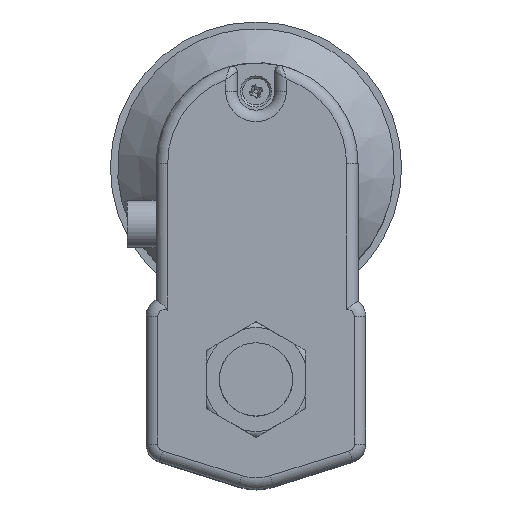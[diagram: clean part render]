
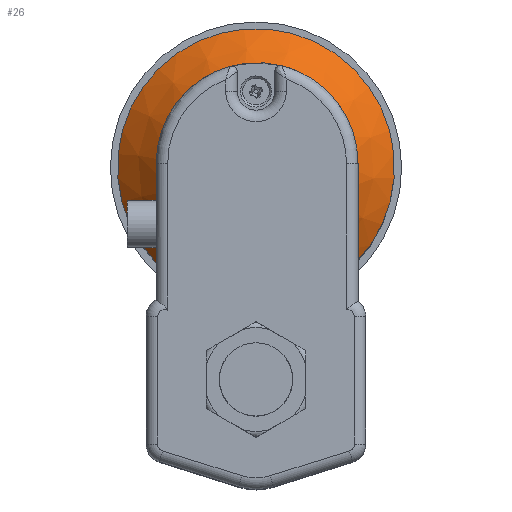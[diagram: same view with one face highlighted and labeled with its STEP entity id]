
A CAD part, top view. The second image highlights one B-rep face of the part: STEP entity #26.
In plain terms, the highlighted conical face has half-angle 45 degrees and reference radius 48 mm.
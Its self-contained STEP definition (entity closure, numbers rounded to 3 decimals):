
#26 = ADVANCED_FACE ( 'NONE', ( #1602, #1596 ), #1603, .T. ) ;
#202 = CARTESIAN_POINT ( 'NONE',  ( 0., 73.9, 53.5 ) ) ;
#203 = DIRECTION ( 'NONE',  ( 0., 0., -1. ) ) ;
#206 = DIRECTION ( 'NONE',  ( 0., 1., 0. ) ) ;
#475 = VERTEX_POINT ( 'NONE', #3270 ) ;
#644 = EDGE_CURVE ( 'NONE', #5731, #5731, #1817, .T. ) ;
#655 = EDGE_CURVE ( 'NONE', #2865, #475, #2910, .T. ) ;
#664 = EDGE_CURVE ( 'NONE', #475, #2865, #1841, .T. ) ;
#903 = AXIS2_PLACEMENT_3D ( 'NONE', #202, #203, #206 ) ;
#1219 = AXIS2_PLACEMENT_3D ( 'NONE', #3708, #3709, #3710 ) ;
#1232 = AXIS2_PLACEMENT_3D ( 'NONE', #3858, #3867, #3868 ) ;
#1596 = FACE_OUTER_BOUND ( 'NONE', #2091, .T. ) ;
#1602 = FACE_BOUND ( 'NONE', #2108, .T. ) ;
#1603 = CONICAL_SURFACE ( 'NONE', #903, 48., 0.785 ) ;
#1817 = CIRCLE ( 'NONE', #1219, 34. ) ;
#1841 = CIRCLE ( 'NONE', #1232, 48. ) ;
#2091 = EDGE_LOOP ( 'NONE', ( #2651, #2652 ) ) ;
#2108 = EDGE_LOOP ( 'NONE', ( #2650 ) ) ;
#2650 = ORIENTED_EDGE ( 'NONE', *, *, #644, .F. ) ;
#2651 = ORIENTED_EDGE ( 'NONE', *, *, #664, .T. ) ;
#2652 = ORIENTED_EDGE ( 'NONE', *, *, #655, .T. ) ;
#2865 = VERTEX_POINT ( 'NONE', #5095 ) ;
#2910 = B_SPLINE_CURVE_WITH_KNOTS ( 'NONE', 3,
 ( #3735, #3732, #3740, #3741, #3742, #3743, #3744, #3745, #3746, #3747, #3748, #3749, #3750, #3751, #3752, #3753, #3754, #3755, #3756, #3757, #3758, #3759, #3760, #3761, #3762, #3763 ),
 .UNSPECIFIED., .F., .F.,
 ( 4, 2, 2, 2, 2, 2, 2, 2, 2, 2, 2, 2, 4 ),
 ( 0., 0.004, 0.007, 0.015, 0.018, 0.022, 0.026, 0.029, 0.037, 0.04, 0.044, 0.051, 0.059 ),
 .UNSPECIFIED. ) ;
#3270 = CARTESIAN_POINT ( 'NONE',  ( 27.908, 34.847, 53.5 ) ) ;
#3708 = CARTESIAN_POINT ( 'NONE',  ( 0., 73.9, 67.5 ) ) ;
#3709 = DIRECTION ( 'NONE',  ( 0., 0., 1. ) ) ;
#3710 = DIRECTION ( 'NONE',  ( 0., -1., 0. ) ) ;
#3732 = CARTESIAN_POINT ( 'NONE',  ( -26.826, 34.768, 54.065 ) ) ;
#3735 = CARTESIAN_POINT ( 'NONE',  ( -27.908, 34.847, 53.5 ) ) ;
#3740 = CARTESIAN_POINT ( 'NONE',  ( -25.733, 34.688, 54.609 ) ) ;
#3741 = CARTESIAN_POINT ( 'NONE',  ( -23.531, 34.53, 55.644 ) ) ;
#3742 = CARTESIAN_POINT ( 'NONE',  ( -22.421, 34.452, 56.137 ) ) ;
#3743 = CARTESIAN_POINT ( 'NONE',  ( -19.06, 34.223, 57.53 ) ) ;
#3744 = CARTESIAN_POINT ( 'NONE',  ( -16.779, 34.077, 58.344 ) ) ;
#3745 = CARTESIAN_POINT ( 'NONE',  ( -13.28, 33.887, 59.356 ) ) ;
#3746 = CARTESIAN_POINT ( 'NONE',  ( -12.101, 33.829, 59.657 ) ) ;
#3747 = CARTESIAN_POINT ( 'NONE',  ( -9.715, 33.725, 60.183 ) ) ;
#3748 = CARTESIAN_POINT ( 'NONE',  ( -8.505, 33.679, 60.407 ) ) ;
#3749 = CARTESIAN_POINT ( 'NONE',  ( -6.081, 33.605, 60.767 ) ) ;
#3750 = CARTESIAN_POINT ( 'NONE',  ( -4.863, 33.577, 60.903 ) ) ;
#3751 = CARTESIAN_POINT ( 'NONE',  ( -2.415, 33.538, 61.085 ) ) ;
#3752 = CARTESIAN_POINT ( 'NONE',  ( -1.188, 33.529, 61.13 ) ) ;
#3753 = CARTESIAN_POINT ( 'NONE',  ( 2.477, 33.529, 61.127 ) ) ;
#3754 = CARTESIAN_POINT ( 'NONE',  ( 4.908, 33.569, 60.942 ) ) ;
#3755 = CARTESIAN_POINT ( 'NONE',  ( 8.537, 33.68, 60.402 ) ) ;
#3756 = CARTESIAN_POINT ( 'NONE',  ( 9.746, 33.726, 60.177 ) ) ;
#3757 = CARTESIAN_POINT ( 'NONE',  ( 12.13, 33.83, 59.65 ) ) ;
#3758 = CARTESIAN_POINT ( 'NONE',  ( 13.307, 33.888, 59.348 ) ) ;
#3759 = CARTESIAN_POINT ( 'NONE',  ( 16.801, 34.078, 58.337 ) ) ;
#3760 = CARTESIAN_POINT ( 'NONE',  ( 19.078, 34.224, 57.523 ) ) ;
#3761 = CARTESIAN_POINT ( 'NONE',  ( 23.55, 34.529, 55.668 ) ) ;
#3762 = CARTESIAN_POINT ( 'NONE',  ( 25.745, 34.688, 54.629 ) ) ;
#3763 = CARTESIAN_POINT ( 'NONE',  ( 27.908, 34.847, 53.5 ) ) ;
#3858 = CARTESIAN_POINT ( 'NONE',  ( 0., 73.9, 53.5 ) ) ;
#3867 = DIRECTION ( 'NONE',  ( 0., 0., 1. ) ) ;
#3868 = DIRECTION ( 'NONE',  ( 0., -1., 0. ) ) ;
#5095 = CARTESIAN_POINT ( 'NONE',  ( -27.908, 34.847, 53.5 ) ) ;
#5731 = VERTEX_POINT ( 'NONE', #5732 ) ;
#5732 = CARTESIAN_POINT ( 'NONE',  ( 0., 39.9, 67.5 ) ) ;
